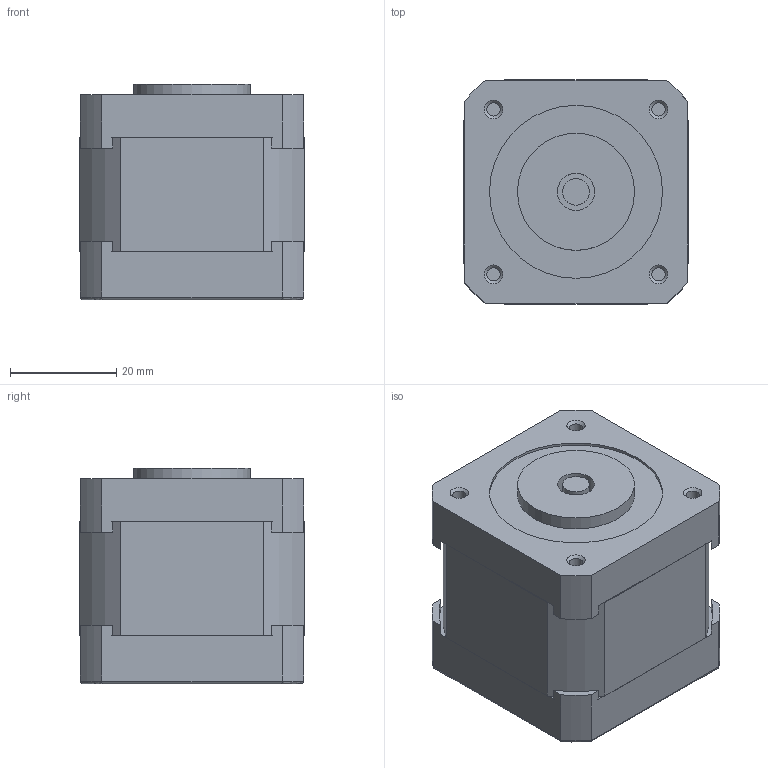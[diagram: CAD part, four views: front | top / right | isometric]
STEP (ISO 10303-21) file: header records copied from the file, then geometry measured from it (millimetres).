
FILE_DESCRIPTION(/* description */ (''),/* implementation_level */ '2;1');
FILE_NAME(/* name */ 'C:/Users/Rasika Jadhav/Downloads/Mission 2 FLoatSat/Stepper_Motor (1) v3.step',/* time_stamp */ '2022-05-16T03:03:23+02:00',/* author */ (''),/* organization */ (''),/* preprocessor_version */ 'ST-DEVELOPER v18.1',/* originating_system */ 'Autodesk Translation Framework v10.14.0.1471',/* authorisation */ '');
FILE_SCHEMA (('AUTOMOTIVE_DESIGN { 1 0 10303 214 3 1 1 }'));
Length unit declared in the file: millimetre
Products named in the file (1): Stepper_Motor (1)
Bounding box: 42.2 x 42.2 x 40.5 mm (x, y, z)
Volume: 65836.8 mm3; surface area: 10629.4 mm2
Topology: 1 solids, 1 shells, 106 faces, 248 edges, 156 vertices
Faces by surface type: plane 62, cylinder 34, cone 5, torus 5
Full cylindrical faces by diameter (mm): 2.5 x4, 5 x2, 7 x2, 22 x1, 32.5 x1
Entity records: 3251 total; most frequent: CARTESIAN_POINT 615, DIRECTION 543, ORIENTED_EDGE 496, EDGE_CURVE 248, AXIS2_PLACEMENT_3D 196, VERTEX_POINT 156, LINE 151, VECTOR 151
